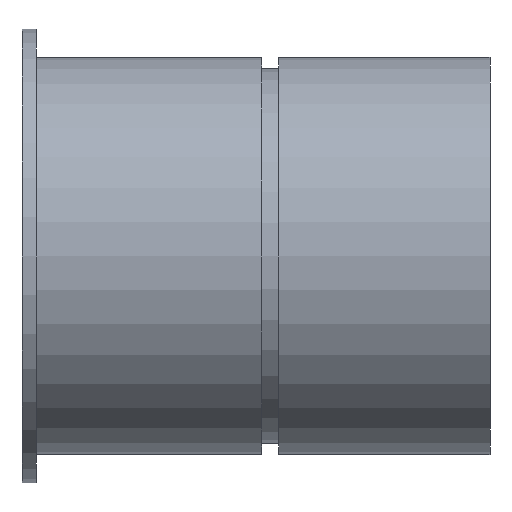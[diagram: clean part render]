
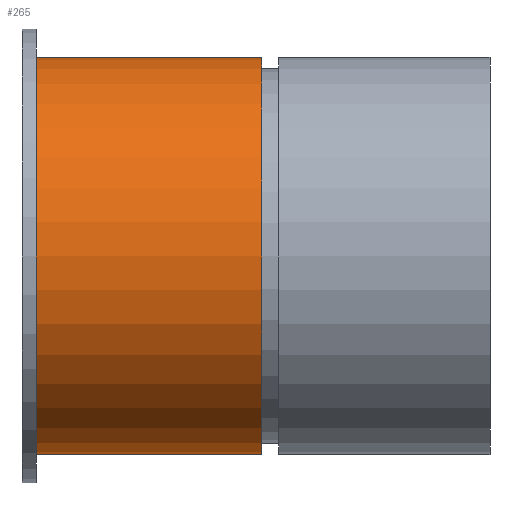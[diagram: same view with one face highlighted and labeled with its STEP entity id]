
A CAD part, front view. The second image highlights one B-rep face of the part: STEP entity #265.
In plain terms, the highlighted cylindrical face has radius 7 mm (diameter 14 mm), a full revolution.
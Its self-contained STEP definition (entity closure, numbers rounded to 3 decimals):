
#106 = PLANE('',#107);
#107 = AXIS2_PLACEMENT_3D('',#108,#109,#110);
#108 = CARTESIAN_POINT('',(56.,-49.893,-53.918));
#109 = DIRECTION('',(1.,0.,0.));
#110 = DIRECTION('',(0.,1.,0.));
#202 = EDGE_CURVE('',#203,#203,#205,.T.);
#203 = VERTEX_POINT('',#204);
#204 = CARTESIAN_POINT('',(56.,-42.893,-53.918));
#205 = SURFACE_CURVE('',#206,(#211,#218),.PCURVE_S1.);
#206 = CIRCLE('',#207,7.);
#207 = AXIS2_PLACEMENT_3D('',#208,#209,#210);
#208 = CARTESIAN_POINT('',(56.,-49.893,-53.918));
#209 = DIRECTION('',(1.,0.,0.));
#210 = DIRECTION('',(0.,1.,0.));
#211 = PCURVE('',#106,#212);
#212 = DEFINITIONAL_REPRESENTATION('',(#213),#217);
#213 = CIRCLE('',#214,7.);
#214 = AXIS2_PLACEMENT_2D('',#215,#216);
#215 = CARTESIAN_POINT('',(0.,0.));
#216 = DIRECTION('',(1.,0.));
#217 = ( GEOMETRIC_REPRESENTATION_CONTEXT(2) 
PARAMETRIC_REPRESENTATION_CONTEXT() REPRESENTATION_CONTEXT('2D SPACE',''
  ) );
#218 = PCURVE('',#219,#224);
#219 = CYLINDRICAL_SURFACE('',#220,7.);
#220 = AXIS2_PLACEMENT_3D('',#221,#222,#223);
#221 = CARTESIAN_POINT('',(-64.,-49.893,-53.918));
#222 = DIRECTION('',(1.,0.,0.));
#223 = DIRECTION('',(0.,1.,0.));
#224 = DEFINITIONAL_REPRESENTATION('',(#225),#229);
#225 = LINE('',#226,#227);
#226 = CARTESIAN_POINT('',(0.,120.));
#227 = VECTOR('',#228,1.);
#228 = DIRECTION('',(1.,0.));
#229 = ( GEOMETRIC_REPRESENTATION_CONTEXT(2) 
PARAMETRIC_REPRESENTATION_CONTEXT() REPRESENTATION_CONTEXT('2D SPACE',''
  ) );
#265 = ADVANCED_FACE('',(#266),#219,.T.);
#266 = FACE_BOUND('',#267,.T.);
#267 = EDGE_LOOP('',(#268,#269,#292,#319));
#268 = ORIENTED_EDGE('',*,*,#202,.T.);
#269 = ORIENTED_EDGE('',*,*,#270,.T.);
#270 = EDGE_CURVE('',#203,#271,#273,.T.);
#271 = VERTEX_POINT('',#272);
#272 = CARTESIAN_POINT('',(63.95,-42.893,-53.918));
#273 = SEAM_CURVE('',#274,(#278,#285),.PCURVE_S1.);
#274 = LINE('',#275,#276);
#275 = CARTESIAN_POINT('',(56.,-42.893,-53.918));
#276 = VECTOR('',#277,1.);
#277 = DIRECTION('',(1.,0.,0.));
#278 = PCURVE('',#219,#279);
#279 = DEFINITIONAL_REPRESENTATION('',(#280),#284);
#280 = LINE('',#281,#282);
#281 = CARTESIAN_POINT('',(6.283,120.));
#282 = VECTOR('',#283,1.);
#283 = DIRECTION('',(0.,1.));
#284 = ( GEOMETRIC_REPRESENTATION_CONTEXT(2) 
PARAMETRIC_REPRESENTATION_CONTEXT() REPRESENTATION_CONTEXT('2D SPACE',''
  ) );
#285 = PCURVE('',#219,#286);
#286 = DEFINITIONAL_REPRESENTATION('',(#287),#291);
#287 = LINE('',#288,#289);
#288 = CARTESIAN_POINT('',(0.,120.));
#289 = VECTOR('',#290,1.);
#290 = DIRECTION('',(0.,1.));
#291 = ( GEOMETRIC_REPRESENTATION_CONTEXT(2) 
PARAMETRIC_REPRESENTATION_CONTEXT() REPRESENTATION_CONTEXT('2D SPACE',''
  ) );
#292 = ORIENTED_EDGE('',*,*,#293,.F.);
#293 = EDGE_CURVE('',#271,#271,#294,.T.);
#294 = SURFACE_CURVE('',#295,(#300,#307),.PCURVE_S1.);
#295 = CIRCLE('',#296,7.);
#296 = AXIS2_PLACEMENT_3D('',#297,#298,#299);
#297 = CARTESIAN_POINT('',(63.95,-49.893,-53.918));
#298 = DIRECTION('',(1.,0.,0.));
#299 = DIRECTION('',(0.,1.,0.));
#300 = PCURVE('',#219,#301);
#301 = DEFINITIONAL_REPRESENTATION('',(#302),#306);
#302 = LINE('',#303,#304);
#303 = CARTESIAN_POINT('',(0.,127.95));
#304 = VECTOR('',#305,1.);
#305 = DIRECTION('',(1.,0.));
#306 = ( GEOMETRIC_REPRESENTATION_CONTEXT(2) 
PARAMETRIC_REPRESENTATION_CONTEXT() REPRESENTATION_CONTEXT('2D SPACE',''
  ) );
#307 = PCURVE('',#308,#313);
#308 = PLANE('',#309);
#309 = AXIS2_PLACEMENT_3D('',#310,#311,#312);
#310 = CARTESIAN_POINT('',(63.95,-49.893,-53.918));
#311 = DIRECTION('',(1.,0.,0.));
#312 = DIRECTION('',(0.,1.,0.));
#313 = DEFINITIONAL_REPRESENTATION('',(#314),#318);
#314 = CIRCLE('',#315,7.);
#315 = AXIS2_PLACEMENT_2D('',#316,#317);
#316 = CARTESIAN_POINT('',(0.,0.));
#317 = DIRECTION('',(1.,0.));
#318 = ( GEOMETRIC_REPRESENTATION_CONTEXT(2) 
PARAMETRIC_REPRESENTATION_CONTEXT() REPRESENTATION_CONTEXT('2D SPACE',''
  ) );
#319 = ORIENTED_EDGE('',*,*,#270,.F.);
